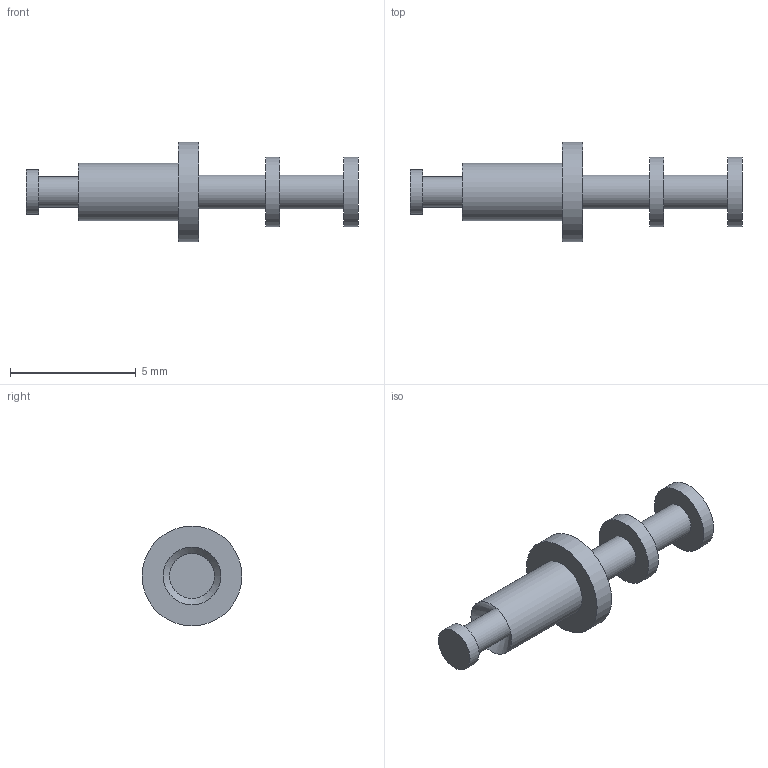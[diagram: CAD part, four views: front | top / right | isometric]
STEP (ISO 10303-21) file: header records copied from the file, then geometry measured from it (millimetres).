
FILE_DESCRIPTION(/* description */ (''),/* implementation_level */ '2;1');
FILE_NAME(/* name */ 'Z:\STEP folder\160-1042-04.ipt.stp',/* time_stamp */ '2016-12-07T10:46:20+00:00',/* author */ ('Paul Karlsons'),/* organization */ (''),/* preprocessor_version */ 'ST-DEVELOPER v15.2',/* originating_system */ 'Autodesk Inventor 2014',/* authorisation */ '');
FILE_SCHEMA (('AUTOMOTIVE_DESIGN { 1 0 10303 214 3 1 1 }'));
Length unit declared in the file: millimetre
Products named in the file (1): 160-1042-04
Bounding box: 13.18 x 3.96 x 3.96 mm (x, y, z)
Volume: 42.8 mm3; surface area: 128 mm2
Topology: 1 solids, 1 shells, 17 faces, 25 edges, 16 vertices
Faces by surface type: cylinder 8, plane 8, cone 1
Full cylindrical faces by diameter (mm): 1.219 x1, 1.346 x2, 1.778 x1, 2.286 x1, 2.768 x2, 3.96 x1
Entity records: 355 total; most frequent: DIRECTION 68, CARTESIAN_POINT 50, AXIS2_PLACEMENT_3D 34, EDGE_LOOP 32, ORIENTED_EDGE 32, FACE_BOUND 18, ADVANCED_FACE 17, CIRCLE 16
